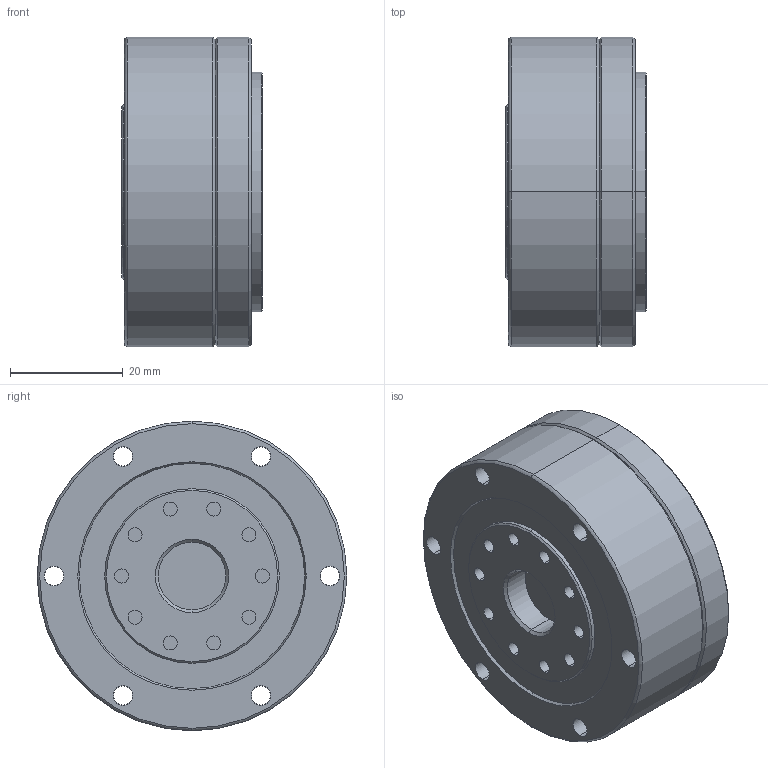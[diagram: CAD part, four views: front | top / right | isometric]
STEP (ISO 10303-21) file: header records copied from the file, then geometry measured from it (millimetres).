
FILE_DESCRIPTION (( 'STEP AP203' ), '1' );
FILE_NAME ('BCD-14-XXX-U-¢ñ.STEP', '2019-01-15T02:34:47', ( 'User' ), ( 'China' ), 'SwSTEP 2.0', 'SolidWorks 2015', '' );
FILE_SCHEMA (( 'CONFIG_CONTROL_DESIGN' ));
Length unit declared in the file: millimetre
Products named in the file (1): BCD-14-XXX-U-ｉ
Bounding box: 25 x 55 x 55 mm (x, y, z)
Surface area: 17673.2 mm2 (no closed solid volume)
Topology: 0 solids, 43 shells, 279 faces, 845 edges, 560 vertices
Faces by surface type: cylinder 100, plane 65, sphere 50, cone 48, torus 16
Entity records: 8577 total; most frequent: DIRECTION 1652, CARTESIAN_POINT 1501, ORIENTED_EDGE 1180, EDGE_CURVE 706, AXIS2_PLACEMENT_3D 672, VERTEX_POINT 485, CIRCLE 392, EDGE_LOOP 343
